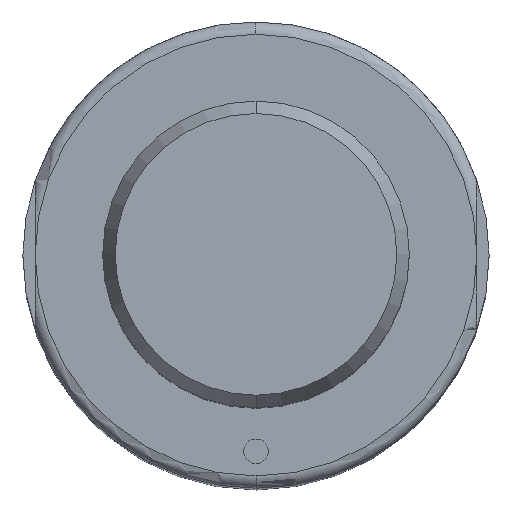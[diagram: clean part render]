
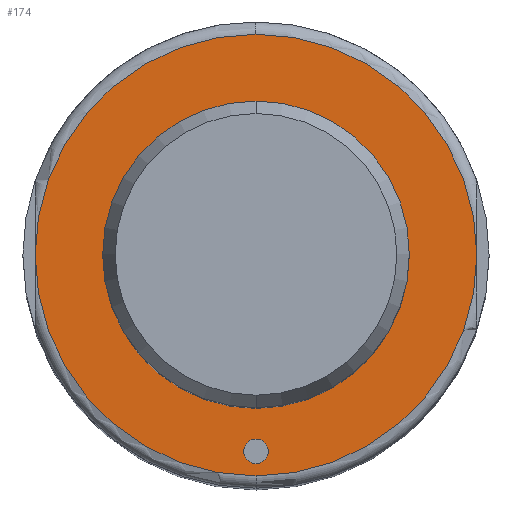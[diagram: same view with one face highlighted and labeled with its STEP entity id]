
A CAD part, top view. The second image highlights one B-rep face of the part: STEP entity #174.
In plain terms, the highlighted planar face has unit normal (0, 0, 1).
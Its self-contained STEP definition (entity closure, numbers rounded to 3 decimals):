
#105=FACE_BOUND('',#298,.T.);
#106=FACE_BOUND('',#299,.T.);
#107=FACE_BOUND('',#300,.T.);
#125=PLANE('',#985);
#174=ADVANCED_FACE('',(#105,#106,#107),#125,.T.);
#298=EDGE_LOOP('',(#459,#460,#461,#462));
#299=EDGE_LOOP('',(#463,#464));
#300=EDGE_LOOP('',(#465,#466));
#367=CIRCLE('',#968,12.5);
#368=CIRCLE('',#970,12.5);
#373=CIRCLE('',#979,18.);
#374=CIRCLE('',#980,18.);
#375=CIRCLE('',#981,18.);
#376=CIRCLE('',#982,18.);
#377=CIRCLE('',#983,1.);
#378=CIRCLE('',#984,1.);
#459=ORIENTED_EDGE('',*,*,#765,.F.);
#460=ORIENTED_EDGE('',*,*,#766,.F.);
#461=ORIENTED_EDGE('',*,*,#767,.F.);
#462=ORIENTED_EDGE('',*,*,#768,.F.);
#463=ORIENTED_EDGE('',*,*,#769,.F.);
#464=ORIENTED_EDGE('',*,*,#770,.F.);
#465=ORIENTED_EDGE('',*,*,#758,.T.);
#466=ORIENTED_EDGE('',*,*,#756,.T.);
#677=VERTEX_POINT('',#1411);
#678=VERTEX_POINT('',#1413);
#683=VERTEX_POINT('',#1432);
#684=VERTEX_POINT('',#1433);
#685=VERTEX_POINT('',#1435);
#686=VERTEX_POINT('',#1437);
#687=VERTEX_POINT('',#1440);
#688=VERTEX_POINT('',#1441);
#756=EDGE_CURVE('',#678,#677,#367,.T.);
#758=EDGE_CURVE('',#677,#678,#368,.T.);
#765=EDGE_CURVE('',#683,#684,#373,.T.);
#766=EDGE_CURVE('',#685,#683,#374,.T.);
#767=EDGE_CURVE('',#686,#685,#375,.T.);
#768=EDGE_CURVE('',#684,#686,#376,.T.);
#769=EDGE_CURVE('',#687,#688,#377,.T.);
#770=EDGE_CURVE('',#688,#687,#378,.T.);
#968=AXIS2_PLACEMENT_3D('',#1412,#1108,#1109);
#970=AXIS2_PLACEMENT_3D('',#1416,#1113,#1114);
#979=AXIS2_PLACEMENT_3D('',#1431,#1133,#1134);
#980=AXIS2_PLACEMENT_3D('',#1434,#1135,#1136);
#981=AXIS2_PLACEMENT_3D('',#1436,#1137,#1138);
#982=AXIS2_PLACEMENT_3D('',#1438,#1139,#1140);
#983=AXIS2_PLACEMENT_3D('',#1439,#1141,#1142);
#984=AXIS2_PLACEMENT_3D('',#1442,#1143,#1144);
#985=AXIS2_PLACEMENT_3D('',#1443,#1145,#1146);
#1108=DIRECTION('',(0.,0.,-1.));
#1109=DIRECTION('',(-1.,0.,0.));
#1113=DIRECTION('',(0.,0.,-1.));
#1114=DIRECTION('',(1.,0.,0.));
#1133=DIRECTION('',(0.,0.,-1.));
#1134=DIRECTION('',(-1.,0.,0.));
#1135=DIRECTION('',(0.,0.,-1.));
#1136=DIRECTION('',(1.,0.,0.));
#1137=DIRECTION('',(0.,0.,-1.));
#1138=DIRECTION('',(1.,0.,0.));
#1139=DIRECTION('',(0.,0.,-1.));
#1140=DIRECTION('',(-1.,0.,0.));
#1141=DIRECTION('',(0.,0.,1.));
#1142=DIRECTION('',(1.,0.,0.));
#1143=DIRECTION('',(0.,0.,1.));
#1144=DIRECTION('',(-1.,0.,0.));
#1145=DIRECTION('',(0.,0.,1.));
#1146=DIRECTION('',(1.,0.,0.));
#1411=CARTESIAN_POINT('',(0.,-12.5,86.));
#1412=CARTESIAN_POINT('',(0.,0.,86.));
#1413=CARTESIAN_POINT('',(0.,12.5,86.));
#1416=CARTESIAN_POINT('',(0.,0.,86.));
#1431=CARTESIAN_POINT('',(0.,0.,86.));
#1432=CARTESIAN_POINT('',(0.,18.,86.));
#1433=CARTESIAN_POINT('',(18.,0.,86.));
#1434=CARTESIAN_POINT('',(0.,0.,86.));
#1435=CARTESIAN_POINT('',(-18.,0.,86.));
#1436=CARTESIAN_POINT('',(0.,0.,86.));
#1437=CARTESIAN_POINT('',(0.,-18.,86.));
#1438=CARTESIAN_POINT('',(0.,0.,86.));
#1439=CARTESIAN_POINT('',(0.,-16.,86.));
#1440=CARTESIAN_POINT('',(0.,-15.,86.));
#1441=CARTESIAN_POINT('',(0.,-17.,86.));
#1442=CARTESIAN_POINT('',(0.,-16.,86.));
#1443=CARTESIAN_POINT('',(0.,0.,86.));
